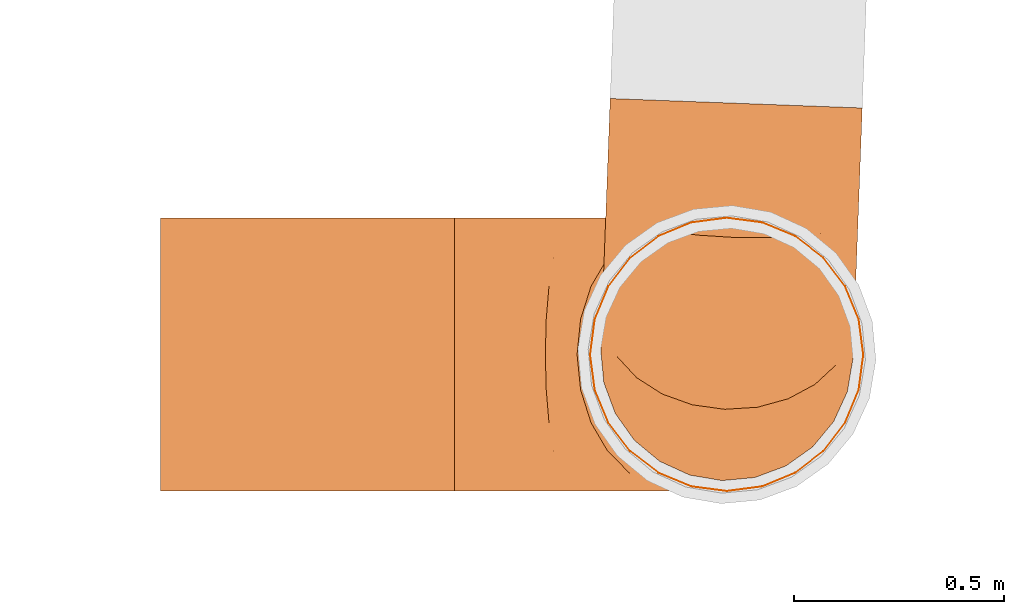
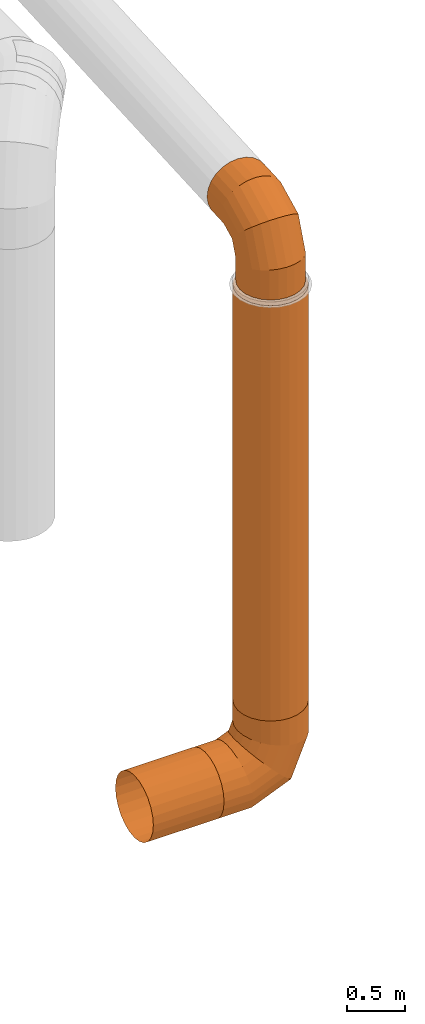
# One storey, part 289 of 301: 4 proxies.
"""IFC2X3 building model written with IfcOpenShell, lengths in millimetres."""

from ifc_helpers import new_model, entity, si_unit, converted_unit, derived_unit, money_unit, direction, frame, origin_with_axes, place, context, subcontext, project, spatial, open_shell, surface_model, type_object, element, save


model = new_model("IFC2X3")

# Units and contexts
model_context = context("Model", 3, precision=0.01, world=origin_with_axes(), true_north=direction((0.0, 1.0)))
body_context = subcontext(model_context, "Body", "Model", "MODEL_VIEW")
ifc_project = project(units=[si_unit("LENGTHUNIT", "METRE", prefix="MILLI"), si_unit("AREAUNIT", "SQUARE_METRE"), si_unit("VOLUMEUNIT", "CUBIC_METRE"), converted_unit("PLANEANGLEUNIT", "DEGREE", entity("IfcPlaneAngleMeasure", 0.0174532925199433), si_unit("PLANEANGLEUNIT", "RADIAN"), dimensions=[0, 0, 0, 0, 0, 0, 0]), money_unit("EUR"), converted_unit("TIMEUNIT", "Year", entity("IfcTimeMeasure", 31557600.0), si_unit("TIMEUNIT", "SECOND"), dimensions=[0, 0, 1, 0, 0, 0, 0]), si_unit("MASSUNIT", "GRAM", prefix="KILO"), si_unit("THERMODYNAMICTEMPERATUREUNIT", "DEGREE_CELSIUS"), si_unit("LUMINOUSINTENSITYUNIT", "LUMEN"), si_unit("ENERGYUNIT", "JOULE", prefix="MEGA"), derived_unit("THERMALCONDUCTANCEUNIT", [(si_unit("POWERUNIT", "WATT"), 1), (si_unit("LENGTHUNIT", "METRE"), -1), (si_unit("THERMODYNAMICTEMPERATUREUNIT", "KELVIN"), -1)]), derived_unit("SPECIFICHEATCAPACITYUNIT", [(si_unit("ENERGYUNIT", "JOULE"), 1), (si_unit("MASSUNIT", "GRAM", prefix="KILO"), -1), (si_unit("THERMODYNAMICTEMPERATUREUNIT", "KELVIN"), -1)]), derived_unit("MASSDENSITYUNIT", [(si_unit("MASSUNIT", "GRAM", prefix="KILO"), 1), (si_unit("VOLUMEUNIT", "CUBIC_METRE"), -1)])], contexts=[model_context])

# Site, building, storey
site_placement = place(None, frame((0.0, 0.0, 8650.0), z_axis=(0.0, 0.0, 1.0), x_axis=(1.0, 0.0, 0.0)))
site = spatial("IfcSite", under=ifc_project, at=site_placement, Name="43301:001:0844", CompositionType="ELEMENT")
building_placement = place(site_placement, origin_with_axes())
building = spatial("IfcBuilding", under=site, at=building_placement, Name="Kuressaare Ametikooli tuulikute mehaanikute õppekorpus", CompositionType="ELEMENT")
storey_placement = place(building_placement, origin_with_axes())
storey = spatial("IfcBuildingStorey", under=building, at=storey_placement, Name="1.korrus", CompositionType="ELEMENT", Elevation=0.0)

# Proxies
building_element_proxy_type = type_object("IfcBuildingElementProxyType", Name="IfcBuildingElementProxy", PredefinedType="NOTDEFINED")
proxy_1_placement = place(storey_placement, frame((70355.36374554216, 41069.55269963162, 831.2626499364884), z_axis=(1.0, 0.0, 0.0), x_axis=(0.0, 1.0, 0.0)))
element("IfcBuildingElementProxy", 1, at=proxy_1_placement, inside=storey, type_object=building_element_proxy_type, context=body_context, shape_type="SurfaceModel", body=[
    surface_model("IfcShellBasedSurfaceModel", [(0.0, -326.0000000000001, 0.0), (84.37500870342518, -314.8918193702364, 0.0), (84.37500870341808, -314.8918193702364, 701.1072667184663), (0.0, -326.0000000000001, 701.1072667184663), (162.9999999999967, -282.324281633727, 0.0), (162.9999999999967, -282.324281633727, 701.1072667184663), (-84.37500870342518, -314.8918193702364, 0.0), (-84.37500870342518, -314.8918193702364, 701.1072667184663), (230.5168106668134, -230.5168106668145, 0.0), (230.5168106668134, -230.5168106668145, 701.1072667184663), (-162.9999999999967, -282.3242816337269, 0.0), (-163.0000000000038, -282.3242816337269, 701.1072667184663), (282.324281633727, -163.0, 0.0), (282.3242816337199, -163.0, 701.1072667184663), (-230.5168106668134, -230.5168106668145, 0.0), (-230.5168106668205, -230.5168106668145, 701.1072667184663), (314.8918193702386, -84.37500870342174, 0.0), (314.8918193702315, -84.37500870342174, 701.1072667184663), (-282.324281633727, -163.0, 0.0), (-282.3242816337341, -163.0, 701.1072667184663), (326.0000000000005, 0.0, 0.0), (325.9999999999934, 0.0, 701.1072667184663), (-314.8918193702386, -84.37500870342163, 0.0), (-314.8918193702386, -84.37500870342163, 701.1072667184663), (314.8918193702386, 84.37500870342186, 0.0), (314.8918193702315, 84.37500870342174, 701.1072667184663), (-326.0000000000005, 0.0, 0.0), (-326.0000000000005, 0.0, 701.1072667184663), (282.324281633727, 162.9999999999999, 0.0), (282.3242816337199, 162.9999999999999, 701.1072667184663), (-314.8918193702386, 84.37500870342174, 0.0), (-314.8918193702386, 84.37500870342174, 701.1072667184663), (230.5168106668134, 230.5168106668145, 0.0), (230.5168106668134, 230.5168106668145, 701.1072667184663), (-282.324281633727, 163.0000000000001, 0.0), (-282.3242816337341, 163.0000000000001, 701.1072667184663), (162.9999999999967, 282.324281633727, 0.0), (162.9999999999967, 282.324281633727, 701.1072667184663), (-230.5168106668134, 230.5168106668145, 0.0), (-230.5168106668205, 230.5168106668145, 701.1072667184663), (84.37500870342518, 314.8918193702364, 0.0), (84.37500870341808, 314.8918193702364, 701.1072667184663), (-162.9999999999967, 282.324281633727, 0.0), (-163.0000000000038, 282.324281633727, 701.1072667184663), (0.0, 326.0000000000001, 0.0), (0.0, 326.0000000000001, 701.1072667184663), (-84.37500870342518, 314.8918193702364, 0.0), (-84.37500870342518, 314.8918193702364, 701.1072667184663)], [open_shell([[[0, 1, 2, 3]], [[1, 4, 5, 2]], [[6, 0, 3, 7]], [[4, 8, 9, 5]], [[10, 6, 7, 11]], [[8, 12, 13, 9]], [[14, 10, 11, 15]], [[12, 16, 17, 13]], [[18, 14, 15, 19]], [[16, 20, 21, 17]], [[22, 18, 19, 23]], [[20, 24, 25, 21]], [[26, 22, 23, 27]], [[24, 28, 29, 25]], [[30, 26, 27, 31]], [[28, 32, 33, 29]], [[34, 30, 31, 35]], [[32, 36, 37, 33]], [[38, 34, 35, 39]], [[36, 40, 41, 37]], [[42, 38, 39, 43]], [[40, 44, 45, 41]], [[46, 42, 43, 47]], [[44, 46, 47, 45]]])]),
])
proxy_2_placement = place(storey_placement, frame((71706.47101226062, 41069.55269963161, 1481.262649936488), z_axis=(1.0, 0.0, 0.0), x_axis=(0.0, 1.0, 0.0)))
element("IfcBuildingElementProxy", 2, at=proxy_2_placement, inside=storey, type_object=building_element_proxy_type, context=body_context, shape_type="SurfaceModel", body=[
    surface_model("IfcShellBasedSurfaceModel", [(0.0, 0.0, 325.9999999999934), (84.37500870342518, 0.0, 314.8918193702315), (84.37500870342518, 4354.461869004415, 314.8918193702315), (0.0, 4354.461869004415, 325.9999999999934), (162.9999999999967, 0.0, 282.3242816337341), (162.9999999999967, 4354.461869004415, 282.3242816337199), (-84.37500870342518, 0.0, 314.8918193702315), (-84.37500870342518, 4354.461869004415, 314.8918193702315), (230.5168106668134, 0.0, 230.5168106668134), (230.5168106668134, 4354.461869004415, 230.5168106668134), (-162.9999999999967, 0.0, 282.3242816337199), (-162.9999999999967, 4354.461869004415, 282.3242816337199), (282.324281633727, 0.0, 162.9999999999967), (282.324281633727, 4354.461869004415, 162.9999999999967), (-230.5168106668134, 0.0, 230.5168106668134), (-230.5168106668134, 4354.461869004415, 230.5168106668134), (314.8918193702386, 0.0, 84.37500870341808), (314.8918193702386, 4354.461869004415, 84.37500870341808), (-282.324281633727, 0.0, 162.9999999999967), (-282.324281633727, 4354.461869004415, 162.9999999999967), (326.0000000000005, 0.0, 0.0), (326.0000000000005, 4354.461869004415, 0.0), (-314.8918193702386, 0.0, 84.37500870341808), (-314.8918193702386, 4354.461869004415, 84.37500870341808), (314.8918193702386, 0.0, -84.37500870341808), (314.8918193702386, 4354.461869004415, -84.37500870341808), (-326.0000000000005, 0.0, 0.0), (-326.0000000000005, 4354.461869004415, 0.0), (282.324281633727, 0.0, -162.9999999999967), (282.324281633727, 4354.461869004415, -162.9999999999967), (-314.8918193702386, 0.0, -84.37500870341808), (-314.8918193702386, 4354.461869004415, -84.37500870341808), (230.5168106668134, 0.0, -230.5168106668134), (230.5168106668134, 4354.461869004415, -230.5168106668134), (-282.324281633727, 0.0, -162.9999999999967), (-282.324281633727, 4354.461869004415, -162.9999999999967), (162.9999999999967, 0.0, -282.3242816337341), (162.9999999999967, 4354.461869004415, -282.3242816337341), (-230.5168106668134, 0.0, -230.5168106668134), (-230.5168106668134, 4354.461869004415, -230.5168106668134), (84.37500870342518, 0.0, -314.8918193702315), (84.37500870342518, 4354.461869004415, -314.8918193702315), (-162.9999999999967, 0.0, -282.3242816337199), (-162.9999999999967, 4354.461869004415, -282.3242816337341), (0.0, 0.0, -325.9999999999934), (0.0, 4354.461869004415, -325.9999999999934), (-84.37500870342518, 0.0, -314.8918193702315), (-84.37500870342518, 4354.461869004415, -314.8918193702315)], [open_shell([[[0, 1, 2, 3]], [[1, 4, 5, 2]], [[6, 0, 3, 7]], [[4, 8, 9, 5]], [[10, 6, 7, 11]], [[8, 12, 13, 9]], [[14, 10, 11, 15]], [[12, 16, 17, 13]], [[18, 14, 15, 19]], [[16, 20, 21, 17]], [[22, 18, 19, 23]], [[20, 24, 25, 21]], [[26, 22, 23, 27]], [[24, 28, 29, 25]], [[30, 26, 27, 31]], [[28, 32, 33, 29]], [[34, 30, 31, 35]], [[32, 36, 37, 33]], [[38, 34, 35, 39]], [[36, 40, 41, 37]], [[42, 38, 39, 43]], [[40, 44, 45, 41]], [[46, 42, 43, 47]], [[44, 46, 47, 45]]])]),
])
proxy_3_placement = place(storey_placement, frame((71056.47101226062, 41069.55269963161, 831.2626499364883), z_axis=(1.0, 0.0, 0.0), x_axis=(0.0, 1.0, 0.0)))
element("IfcBuildingElementProxy", 3, at=proxy_3_placement, inside=storey, type_object=building_element_proxy_type, context=body_context, shape_type="SurfaceModel", body=[
    surface_model("IfcShellBasedSurfaceModel", [(0.0, 325.9999999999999, 0.0), (-84.37500870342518, 314.8918193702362, 0.0), (-84.37500870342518, 314.8918193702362, 219.1686994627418), (0.0, 325.9999999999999, 216.959144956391), (-162.9999999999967, 282.3242816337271, 0.0), (-163.0000000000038, 282.3242816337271, 225.6467854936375), (-84.37500870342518, 348.8497071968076, 301.1502928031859), (0.0, 357.3515405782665, 292.6484594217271), (84.37500870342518, 314.8918193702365, 0.0), (84.37500870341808, 314.8918193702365, 219.1686994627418), (-230.5168106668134, 230.5168106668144, 0.0), (-230.5168106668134, 230.5168106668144, 235.951932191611), (-163.0000000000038, 323.9235929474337, 326.0764070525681), (-84.37500870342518, 430.8313005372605, 335.10818062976), (0.0, 433.0408550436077, 323.9999999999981), (84.37500870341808, 348.8497071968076, 301.1502928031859), (163.0000000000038, 282.3242816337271, 0.0), (162.9999999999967, 282.3242816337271, 225.6467854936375), (-282.324281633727, 163.0, 0.0), (-282.324281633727, 163.0, 249.3818608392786), (-230.5168106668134, 284.271871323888, 365.7281286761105), (-163.0000000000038, 424.353214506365, 367.6757183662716), (-84.37500870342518, 650.0, 335.10818062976), (0.0, 650.0, 323.9999999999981), (84.37500870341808, 430.8313005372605, 335.10818062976), (162.9999999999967, 323.9235929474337, 326.0764070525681), (230.5168106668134, 230.5168106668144, 0.0), (230.5168106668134, 230.5168106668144, 235.951932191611), (-314.8918193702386, 84.37500870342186, 0.0), (-314.8918193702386, 84.37500870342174, 265.0213439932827), (-282.324281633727, 232.5967416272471, 417.403258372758), (-230.5168106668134, 414.0480678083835, 419.4831893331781), (-163.0000000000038, 650.0, 367.6757183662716), (84.37500870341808, 650.0, 335.10818062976), (162.9999999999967, 424.353214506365, 367.6757183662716), (230.5168106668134, 284.271871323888, 365.7281286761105), (282.324281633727, 162.9999999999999, 0.0), (282.324281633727, 162.9999999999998, 249.3818608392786), (-326.0000000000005, 0.0, 0.0), (-326.0000000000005, 0.0, 281.8045767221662), (-314.8918193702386, 172.4197785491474, 477.5802214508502), (-282.324281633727, 400.6181391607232, 486.9999999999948), (-230.5168106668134, 650.0, 419.4831893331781), (162.9999999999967, 650.0, 367.6757183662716), (230.5168106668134, 414.0480678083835, 419.4831893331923), (282.324281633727, 232.5967416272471, 417.403258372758), (314.8918193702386, 84.37500870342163, 0.0), (314.8918193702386, 84.37500870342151, 265.0213439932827), (-314.8918193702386, -84.37500870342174, 0.0), (-314.8918193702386, -84.37500870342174, 298.5878094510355), (-326.0000000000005, 107.8419426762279, 542.1580573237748), (-314.8918193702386, 384.978656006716, 565.6249912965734), (-282.324281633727, 650.0, 486.9999999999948), (230.5168106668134, 650.0, 419.4831893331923), (282.324281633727, 400.6181391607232, 486.9999999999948), (314.8918193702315, 172.4197785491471, 477.5802214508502), (326.0000000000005, 0.0, 0.0), (326.0000000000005, 0.0, 281.8045767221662), (-282.324281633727, -162.9999999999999, 0.0), (-282.324281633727, -162.9999999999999, 314.2272926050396), (-314.8918193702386, 43.26410680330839, 606.7358931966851), (-326.0000000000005, 368.1954232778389, 649.9999999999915), (-314.8918193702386, 650.0, 565.6249912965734), (282.324281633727, 650.0, 486.9999999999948), (314.8918193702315, 384.9786560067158, 565.6249912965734), (326.0000000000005, 107.8419426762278, 542.1580573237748), (314.8918193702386, -84.37500870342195, 0.0), (314.8918193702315, -84.37500870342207, 298.5878094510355), (-230.5168106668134, -230.5168106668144, 0.0), (-230.5168106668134, -230.5168106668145, 327.6572212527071), (-282.3242816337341, -16.91285627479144, 666.9128562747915), (-314.8918193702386, 351.4121905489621, 734.3750087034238), (-326.0000000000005, 650.0, 649.9999999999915), (314.8918193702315, 650.0, 565.6249912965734), (325.9999999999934, 368.1954232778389, 650.0000000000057), (314.8918193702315, 43.26410680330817, 606.7358931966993), (282.324281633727, -163.0000000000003, 0.0), (282.324281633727, -163.0000000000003, 314.2272926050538), (-162.9999999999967, -282.3242816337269, 0.0), (-163.0000000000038, -282.324281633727, 337.9623679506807), (-230.5168106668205, -68.58798597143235, 718.5879859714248), (-282.3242816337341, 335.7727073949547, 813.0000000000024), (-314.8918193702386, 650.0, 734.3750087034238), (325.9999999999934, 650.0, 650.0000000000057), (314.8918193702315, 351.4121905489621, 734.3750087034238), (282.3242816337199, -16.91285627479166, 666.9128562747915), (230.5168106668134, -230.5168106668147, 0.0), (230.5168106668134, -230.5168106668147, 327.6572212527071), (-84.37500870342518, -314.8918193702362, 0.0), (-84.37500870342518, -314.8918193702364, 344.4404539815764), (-163.0000000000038, -108.239707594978, 758.2397075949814), (-230.5168106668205, 322.3427787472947, 880.5168106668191), (-282.3242816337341, 650.0, 813.0000000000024), (314.8918193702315, 650.0, 734.3750087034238), (282.3242816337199, 335.7727073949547, 813.0000000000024), (230.5168106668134, -68.58798597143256, 718.587985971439), (162.9999999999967, -282.3242816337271, 0.0), (162.9999999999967, -282.3242816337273, 337.9623679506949), (0.0, -326.0000000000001, 0.0), (0.0, -326.0000000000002, 346.6500084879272), (-84.37500870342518, -133.165821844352, 783.1658218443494), (-163.0000000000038, 312.0376320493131, 932.3242816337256), (-230.5168106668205, 650.0, 880.5168106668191), (282.3242816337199, 650.0, 813.0000000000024), (230.5168106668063, 322.3427787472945, 880.5168106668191), (162.9999999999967, -108.2397075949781, 758.2397075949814), (84.37500870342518, -314.8918193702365, 0.0), (84.37500870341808, -314.8918193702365, 344.4404539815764), (0.0, -141.6676552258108, 791.6676552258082), (-84.37500870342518, 305.5595460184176, 964.8918193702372), (-163.0000000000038, 650.0, 932.3242816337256), (230.5168106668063, 650.0, 880.5168106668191), (162.9999999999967, 312.0376320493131, 932.3242816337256), (84.37500870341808, -133.165821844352, 783.1658218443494), (0.0, 303.3499915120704, 975.9999999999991), (-84.37500870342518, 650.0, 964.8918193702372), (162.9999999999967, 650.0, 932.3242816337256), (84.37500870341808, 305.5595460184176, 964.8918193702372), (0.0, 650.0, 975.9999999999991), (84.37500870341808, 650.0, 964.8918193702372)], [open_shell([[[0, 1, 2, 3]], [[1, 4, 5, 2]], [[3, 2, 6, 7]], [[8, 0, 3, 9]], [[4, 10, 11, 5]], [[2, 5, 12, 6]], [[7, 6, 13, 14]], [[9, 3, 7, 15]], [[16, 8, 9, 17]], [[10, 18, 19, 11]], [[5, 11, 20, 12]], [[6, 12, 21, 13]], [[14, 13, 22, 23]], [[15, 7, 14, 24]], [[17, 9, 15, 25]], [[26, 16, 17, 27]], [[18, 28, 29, 19]], [[11, 19, 30, 20]], [[12, 20, 31, 21]], [[13, 21, 32, 22]], [[24, 14, 23, 33]], [[25, 15, 24, 34]], [[27, 17, 25, 35]], [[36, 26, 27, 37]], [[28, 38, 39, 29]], [[19, 29, 40, 30]], [[20, 30, 41, 31]], [[21, 31, 42, 32]], [[34, 24, 33, 43]], [[35, 25, 34, 44]], [[37, 27, 35, 45]], [[46, 36, 37, 47]], [[38, 48, 49, 39]], [[29, 39, 50, 40]], [[30, 40, 51, 41]], [[31, 41, 52, 42]], [[44, 34, 43, 53]], [[45, 35, 44, 54]], [[47, 37, 45, 55]], [[56, 46, 47, 57]], [[48, 58, 59, 49]], [[39, 49, 60, 50]], [[40, 50, 61, 51]], [[41, 51, 62, 52]], [[54, 44, 53, 63]], [[55, 45, 54, 64]], [[57, 47, 55, 65]], [[66, 56, 57, 67]], [[58, 68, 69, 59]], [[49, 59, 70, 60]], [[50, 60, 71, 61]], [[51, 61, 72, 62]], [[64, 54, 63, 73]], [[65, 55, 64, 74]], [[67, 57, 65, 75]], [[76, 66, 67, 77]], [[68, 78, 79, 69]], [[59, 69, 80, 70]], [[60, 70, 81, 71]], [[61, 71, 82, 72]], [[74, 64, 73, 83]], [[75, 65, 74, 84]], [[77, 67, 75, 85]], [[86, 76, 77, 87]], [[78, 88, 89, 79]], [[69, 79, 90, 80]], [[70, 80, 91, 81]], [[71, 81, 92, 82]], [[84, 74, 83, 93]], [[85, 75, 84, 94]], [[87, 77, 85, 95]], [[96, 86, 87, 97]], [[88, 98, 99, 89]], [[79, 89, 100, 90]], [[80, 90, 101, 91]], [[81, 91, 102, 92]], [[94, 84, 93, 103]], [[95, 85, 94, 104]], [[97, 87, 95, 105]], [[106, 96, 97, 107]], [[98, 106, 107, 99]], [[89, 99, 108, 100]], [[90, 100, 109, 101]], [[91, 101, 110, 102]], [[104, 94, 103, 111]], [[105, 95, 104, 112]], [[107, 97, 105, 113]], [[99, 107, 113, 108]], [[100, 108, 114, 109]], [[101, 109, 115, 110]], [[112, 104, 111, 116]], [[113, 105, 112, 117]], [[108, 113, 117, 114]], [[109, 114, 118, 115]], [[117, 112, 116, 119]], [[114, 117, 119, 118]]])]),
])
proxy_4_placement = place(storey_placement, frame((71706.47101226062, 41069.55269963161, 5879.025789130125), z_axis=(1.0, 0.0, 0.0), x_axis=(0.0, 1.0, 0.0)))
element("IfcBuildingElementProxy", 4, at=proxy_4_placement, inside=storey, type_object=building_element_proxy_type, context=body_context, shape_type="SurfaceModel", body=[
    surface_model("IfcShellBasedSurfaceModel", [(300.7889572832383, 0.0, 11.26956860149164), (293.4566010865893, 0.0, -66.96434333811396), (293.4566010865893, 202.2947891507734, -66.96434333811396), (300.7889572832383, 200.2546790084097, 11.26956860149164), (266.1256624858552, 0.0, -140.6347459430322), (266.1256624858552, 208.2760894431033, -140.6347459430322), (324.7629445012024, 277.9280173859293, -65.79139806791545), (329.6905139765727, 270.0781650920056, 12.35241445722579), (287.6230431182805, 0.0, 88.73547806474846), (287.6230431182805, 202.2947891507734, 88.73547806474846), (220.6586997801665, 0.0, -204.7211230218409), (220.6586997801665, 217.7909641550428, -204.7211230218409), (304.4824838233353, 300.9426198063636, -139.1976425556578), (400.3431433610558, 309.2563262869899, -62.95965768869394), (399.4650441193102, 298.9999999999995, 14.96663560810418), (318.9293865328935, 277.9280173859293, 89.90842333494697), (254.8560938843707, 0.0, 160.154211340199), (254.8560938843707, 208.2760894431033, 160.154211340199), (160.154211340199, 0.0, -254.8560938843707), (160.154211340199, 230.1909902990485, -254.8560938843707), (270.2312118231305, 337.5535652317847, -202.8638047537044), (397.0840421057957, 339.3263534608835, -135.7281680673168), (602.4960958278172, 309.2563262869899, -55.38565435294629), (599.5793168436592, 298.9999999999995, 22.46425634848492), (394.5095853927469, 309.2563262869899, 92.74016371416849), (293.2129152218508, 300.9426198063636, 161.5913147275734), (204.721123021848, 0.0, 220.6586997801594), (204.721123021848, 217.7909641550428, 220.6586997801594), (88.73547806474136, 0.0, -287.6230431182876), (88.73547806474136, 244.6311265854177, -287.6230431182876), (224.3432960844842, 385.2658782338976, -252.4511409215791), (389.9098427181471, 387.160858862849, -198.3798418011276), (605.214101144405, 339.3263534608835, -127.9302222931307), (596.6625378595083, 309.2563262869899, 100.3141670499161), (385.8144735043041, 339.3263534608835, 165.0607892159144), (254.293635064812, 337.5535652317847, 222.5160180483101), (140.6347459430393, 0.0, 266.1256624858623), (140.6347459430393, 230.1909902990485, 266.1256624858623), (11.26956860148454, 0.0, -300.7889572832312), (11.26956860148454, 260.1273015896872, -300.7889572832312), (169.9459222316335, 440.8280435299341, -284.5803560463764), (379.3094550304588, 449.4999999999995, -246.6450708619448), (607.5481052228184, 387.160858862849, -190.2256550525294), (593.9445325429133, 339.3263534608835, 172.8587349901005), (373.9722659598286, 387.160858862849, 226.9999810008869), (204.8238306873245, 385.2658782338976, 268.530615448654), (66.96434333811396, 0.0, 293.4566010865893), (66.96434333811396, 244.6311265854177, 293.4566010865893), (-66.96434333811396, 0.0, -293.4566010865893), (-66.96434333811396, 275.6234765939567, -293.4566010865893), (110.7461813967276, 500.4535913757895, -297.0618972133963), (366.0052779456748, 522.0954674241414, -277.2346596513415), (609.3390495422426, 449.4999999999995, -238.0266218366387), (591.6105284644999, 387.160858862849, 235.1541677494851), (359.789989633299, 449.5000000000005, 274.3366855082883), (148.1747875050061, 440.828043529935, 296.4992881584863), (-11.26956860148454, 0.0, 300.7889572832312), (-11.26956860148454, 260.1273015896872, 300.7889572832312), (-140.6347459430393, 0.0, -266.1256624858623), (-140.6347459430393, 290.063612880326, -266.1256624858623), (50.778438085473, 560.0791392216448, -289.0451680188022), (350.9039691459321, 599.9999999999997, -288.0639782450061), (610.4648842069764, 522.0954674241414, -268.0755657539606), (589.8195841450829, 449.5000000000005, 282.9551345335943), (344.2341432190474, 522.0954674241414, 303.8449845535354), (88.20704419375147, 500.4535913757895, 304.5160173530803), (-88.73547806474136, 0.0, 287.6230431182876), (-88.73547806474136, 275.6234765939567, 287.6230431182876), (-204.721123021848, 0.0, -220.6586997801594), (-204.721123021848, 302.4636390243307, -220.6586997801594), (-5.870605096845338, 615.6413045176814, -261.0764953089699), (335.0346578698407, 677.9045325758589, -278.3950264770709), (610.8488854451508, 599.9999999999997, -278.3247009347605), (588.693749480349, 522.0954674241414, 313.0040784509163), (328.364831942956, 599.9999999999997, 313.5139363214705), (29.0073033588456, 560.0791392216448, 292.0344761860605), (-160.154211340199, 0.0, 254.8560938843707), (-160.154211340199, 290.063612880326, 254.8560938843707), (-254.8560938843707, 0.0, -160.154211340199), (-254.8560938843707, 311.9785137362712, -160.154211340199), (-55.34040947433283, 663.3536175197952, -215.0618979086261), (319.4788114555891, 750.4999999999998, -248.8867274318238), (610.4648842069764, 677.9045325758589, -268.0755657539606), (588.3097482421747, 599.9999999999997, 323.2532136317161), (313.2635231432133, 677.9045325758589, 302.684617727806), (-25.3900704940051, 615.6413045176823, 259.9052610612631), (-220.6586997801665, 0.0, 204.7211230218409), (-220.6586997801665, 302.4636390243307, 204.7211230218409), (-287.6230431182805, 0.0, -88.73547806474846), (-287.6230431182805, 317.959814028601, -88.73547806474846), (-94.25968963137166, 699.9645629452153, -154.1371945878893), (305.2965351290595, 812.8391411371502, -201.5500229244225), (609.3390495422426, 750.4999999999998, -238.0266218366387), (588.693749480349, 677.9045325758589, 313.0040784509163), (299.9593460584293, 750.4999999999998, 272.0950289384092), (-71.27798623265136, 663.3536175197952, 210.3179248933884), (-266.1256624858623, 0.0, 140.6347459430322), (-266.1256624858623, 311.9785137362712, 140.6347459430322), (-300.7889572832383, 0.0, -11.26956860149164), (-300.7889572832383, 319.9999241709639, -11.26956860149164), (-119.9761609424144, 722.9791653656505, -82.45430319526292), (293.454327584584, 860.6736465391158, -139.6108311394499), (607.5481052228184, 812.8391411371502, -190.2256550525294), (589.8195841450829, 750.4999999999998, 282.9551345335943), (289.358958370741, 812.8391411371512, 223.829799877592), (-105.5292582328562, 699.9645629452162, 146.6517626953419), (-293.4566010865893, 0.0, 66.96434333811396), (-293.4566010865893, 317.959814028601, 66.96434333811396), (-130.7372883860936, 730.8290176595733, -4.89829431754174), (284.7592156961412, 890.7436737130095, -67.29020563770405), (605.214101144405, 860.6736465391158, -127.9302222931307), (591.6105284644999, 812.8391411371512, 235.1541677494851), (282.1847589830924, 860.6736465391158, 161.1781261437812), (-125.8097189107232, 722.9791653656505, 73.2455182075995), (279.8037569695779, 900.9999999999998, 10.48332246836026), (602.4960958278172, 890.7436737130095, -55.38565435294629), (593.9445325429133, 860.6736465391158, 172.8587349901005), (278.9256577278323, 890.7436737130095, 88.40961576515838), (599.5793168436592, 900.9999999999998, 22.46425634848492), (596.6625378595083, 890.7436737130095, 100.3141670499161)], [open_shell([[[0, 1, 2, 3]], [[1, 4, 5, 2]], [[3, 2, 6, 7]], [[8, 0, 3, 9]], [[4, 10, 11, 5]], [[2, 5, 12, 6]], [[7, 6, 13, 14]], [[9, 3, 7, 15]], [[16, 8, 9, 17]], [[10, 18, 19, 11]], [[5, 11, 20, 12]], [[6, 12, 21, 13]], [[14, 13, 22, 23]], [[15, 7, 14, 24]], [[17, 9, 15, 25]], [[26, 16, 17, 27]], [[18, 28, 29, 19]], [[11, 19, 30, 20]], [[12, 20, 31, 21]], [[13, 21, 32, 22]], [[24, 14, 23, 33]], [[25, 15, 24, 34]], [[27, 17, 25, 35]], [[36, 26, 27, 37]], [[28, 38, 39, 29]], [[19, 29, 40, 30]], [[20, 30, 41, 31]], [[21, 31, 42, 32]], [[34, 24, 33, 43]], [[35, 25, 34, 44]], [[37, 27, 35, 45]], [[46, 36, 37, 47]], [[38, 48, 49, 39]], [[29, 39, 50, 40]], [[30, 40, 51, 41]], [[31, 41, 52, 42]], [[44, 34, 43, 53]], [[45, 35, 44, 54]], [[47, 37, 45, 55]], [[56, 46, 47, 57]], [[48, 58, 59, 49]], [[39, 49, 60, 50]], [[40, 50, 61, 51]], [[41, 51, 62, 52]], [[54, 44, 53, 63]], [[55, 45, 54, 64]], [[57, 47, 55, 65]], [[66, 56, 57, 67]], [[58, 68, 69, 59]], [[49, 59, 70, 60]], [[50, 60, 71, 61]], [[51, 61, 72, 62]], [[64, 54, 63, 73]], [[65, 55, 64, 74]], [[67, 57, 65, 75]], [[76, 66, 67, 77]], [[68, 78, 79, 69]], [[59, 69, 80, 70]], [[60, 70, 81, 71]], [[61, 71, 82, 72]], [[74, 64, 73, 83]], [[75, 65, 74, 84]], [[77, 67, 75, 85]], [[86, 76, 77, 87]], [[78, 88, 89, 79]], [[69, 79, 90, 80]], [[70, 80, 91, 81]], [[71, 81, 92, 82]], [[84, 74, 83, 93]], [[85, 75, 84, 94]], [[87, 77, 85, 95]], [[96, 86, 87, 97]], [[88, 98, 99, 89]], [[79, 89, 100, 90]], [[80, 90, 101, 91]], [[81, 91, 102, 92]], [[94, 84, 93, 103]], [[95, 85, 94, 104]], [[97, 87, 95, 105]], [[106, 96, 97, 107]], [[98, 106, 107, 99]], [[89, 99, 108, 100]], [[90, 100, 109, 101]], [[91, 101, 110, 102]], [[104, 94, 103, 111]], [[105, 95, 104, 112]], [[107, 97, 105, 113]], [[99, 107, 113, 108]], [[100, 108, 114, 109]], [[101, 109, 115, 110]], [[112, 104, 111, 116]], [[113, 105, 112, 117]], [[108, 113, 117, 114]], [[109, 114, 118, 115]], [[117, 112, 116, 119]], [[114, 117, 119, 118]]])]),
])

save(model, "model.ifc")
